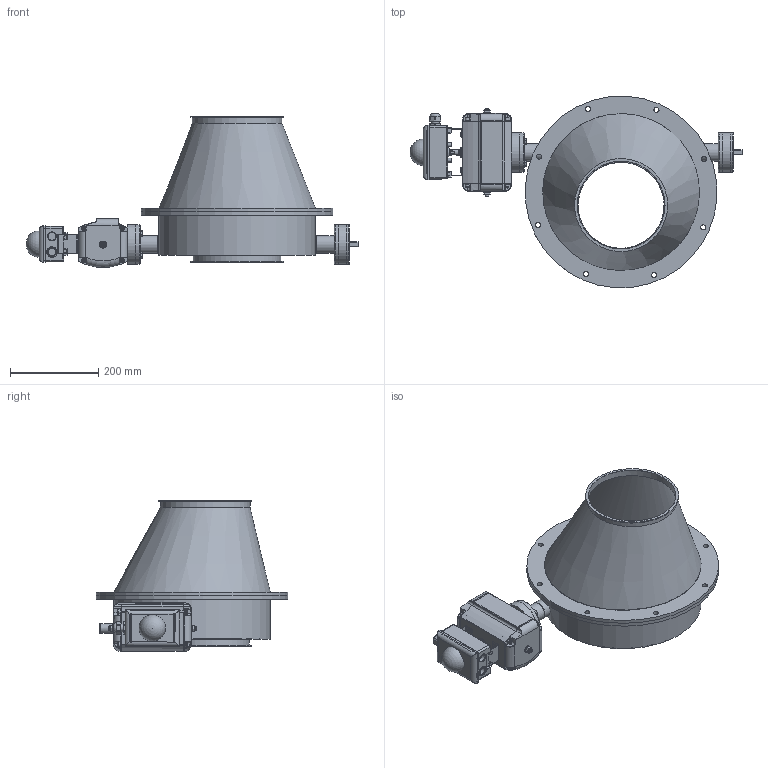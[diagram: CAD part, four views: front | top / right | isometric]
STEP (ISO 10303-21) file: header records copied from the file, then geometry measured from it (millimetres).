
FILE_DESCRIPTION((''),'2;1');
FILE_NAME('U:\Wolfgang\Marcel-3D\fertig\Kapitel 8\2021218.stp','2012-01-13T11:07:26',('iwienholt'),(''),'Autodesk Inventor 2010','Autodesk Inventor 2010','');
FILE_SCHEMA(('AUTOMOTIVE_DESIGN { 1 0 10303 214 1 1 1 1 }'));
Length unit declared in the file: millimetre
Products named in the file (25): 2021218; 2021218-1; 03581301; wellenendeD20; Buchse D20 90-50; LagerdeckelD20; PendelkugellagerD20; EndstückD20; WellenendeD20 mit Antrieb; DIN EN ISO 4018 M8x35; Pneumatischer SchwenkantriebS85D-2; Body; roter Verschluss; A1 Schwenkantrieb S85D; Body S085D; DIN EN ISO 4018 M5x10; DIN 125-1 A A 13; End Cap L85; End Cap R85; DIN 125-1 A A 8,4; DIN 916 M8  x  40; DIN 555 - ersetzt durch DIN EN 24034 M8; DIN EN ISO 4762 M6 x 12; Halterung; Deckel2
Assembly tree (49 placements, depth 5):
  2021218
    2021218-1
    03581301  x2
    wellenendeD20
      Buchse D20 90-50
      LagerdeckelD20
      PendelkugellagerD20
      EndstückD20
    WellenendeD20 mit Antrieb
      Buchse D20 90-50
      PendelkugellagerD20
      DIN EN ISO 4018 M8x35  x4
      Pneumatischer SchwenkantriebS85D-2
        Body
        roter Verschluss
        A1 Schwenkantrieb S85D
          Body S085D
          DIN EN ISO 4018 M5x10  x4
          DIN 125-1 A A 13  x2
          End Cap L85
          End Cap R85
          DIN 125-1 A A 8,4  x2
          DIN 916 M8  x  40  x2
          DIN 555 - ersetzt durch DIN EN 24034 M8  x2
          DIN EN ISO 4762 M6 x 12  x8
        Halterung  x2
        DIN EN ISO 4018 M5x10  x4
        Deckel2
Bounding box: 752.5 x 434.27 x 342.23 mm (x, y, z)
Volume: 4205777.8 mm3; surface area: 1433843 mm2
Topology: 47 solids, 47 shells, 1016 faces, 2339 edges, 1484 vertices
Faces by surface type: plane 498, cylinder 207, bspline 141, cone 130, torus 39, sphere 1
Full cylindrical faces by diameter (mm): 3.242 x4, 5 x10, 6 x8, 6.647 x4, 8 x10, 8.376 x1, 8.4 x2, 10 x8, 11.9 x2, 12.5 x1, 13 x5, 14 x1, 16 x2, 17 x1, 17.3 x1, 17.79 x2, 18 x3, 20.5 x2, 21.3 x1, 22 x1, 23 x2, 24 x3, 28.5 x1, 30 x3, 36 x2, 40 x5, 47 x2, 90 x5, 199 x1, 203 x1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
Entity records: 25054 total; most frequent: CARTESIAN_POINT 10179, DIRECTION 2926, ORIENTED_EDGE 2628, EDGE_CURVE 1314, AXIS2_PLACEMENT_3D 1139, EDGE_LOOP 941, VERTEX_POINT 923, VECTOR 648
